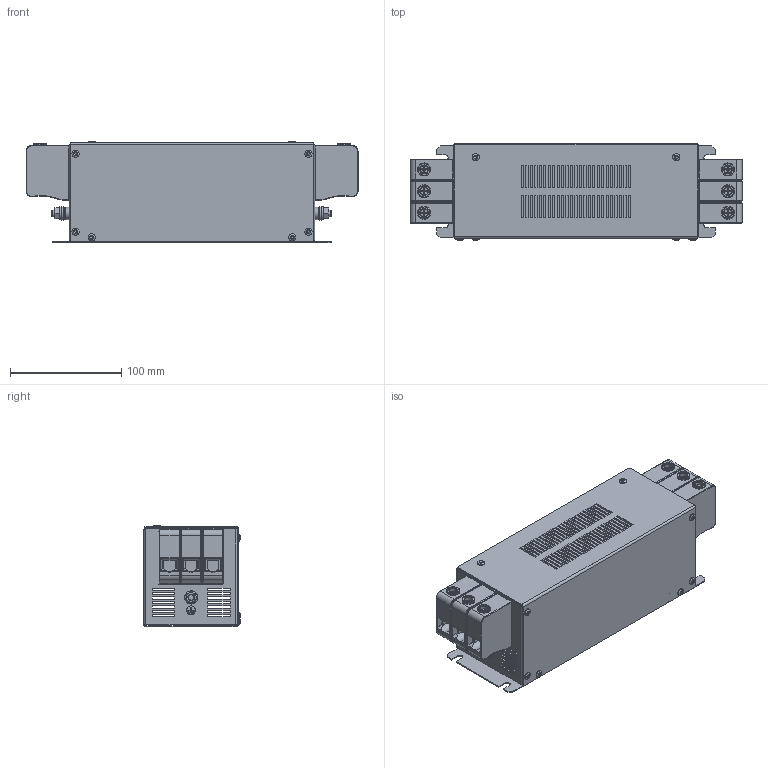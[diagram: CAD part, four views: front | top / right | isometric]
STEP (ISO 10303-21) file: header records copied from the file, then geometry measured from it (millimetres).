
FILE_DESCRIPTION((''),'2;1');
FILE_NAME('P:\Construction\Filter_Marketing\FN\FN3268\FN3268-55-34\FN3268-55-34.stp','2014-06-27T12:54:16',('erika.jenzer'),(''),'Autodesk Inventor 2013','Autodesk Inventor 2013','');
FILE_SCHEMA(('AUTOMOTIVE_DESIGN { 1 0 10303 214 1 1 1 1 }'));
Length unit declared in the file: millimetre
Products named in the file (1): FN3268-55-34
Bounding box: 298 x 86.4 x 91.4 mm (x, y, z)
Volume: 345205 mm3; surface area: 234463.3 mm2
Topology: 4 solids, 6 shells, 2386 faces, 6034 edges, 3640 vertices
Faces by surface type: plane 1170, cylinder 792, sphere 150, bspline 123, torus 98, cone 53
Full cylindrical faces by diameter (mm): 2 x8, 3.2 x8, 3.3 x8, 3.4 x8, 3.8 x8, 5.2 x8, 5.459 x1, 6 x4, 6.4 x2, 6.5 x8, 7 x6, 7.724 x2, 7.979 x2, 8 x2, 8.7 x1, 11.05 x2, 11.55 x2, 11.6 x6, 12 x2
Entity records: 82144 total; most frequent: CARTESIAN_POINT 23473, DIRECTION 11708, ORIENTED_EDGE 11460, EDGE_CURVE 5730, AXIS2_PLACEMENT_3D 4058, VERTEX_POINT 3598, VECTOR 3592, LINE 3592
